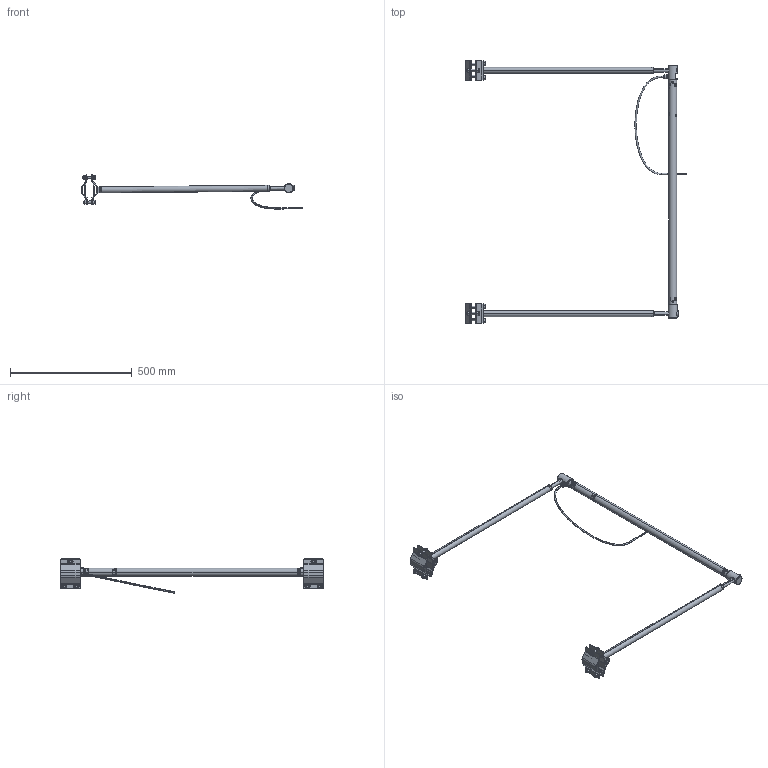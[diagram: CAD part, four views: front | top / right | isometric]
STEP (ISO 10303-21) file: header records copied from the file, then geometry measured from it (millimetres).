
FILE_DESCRIPTION (( 'STEP AP214' ), '1' );
FILE_NAME ('SFBRA.STEP', '2023-08-17T12:10:39', ( '' ), ( '' ), 'SwSTEP 2.0', 'SolidWorks 2023', '' );
FILE_SCHEMA (( 'AUTOMOTIVE_DESIGN' ));
Length unit declared in the file: millimetre
Products named in the file (34): FUSEE; CABLE_round^CABLE; SFHEAD; CABEND; BN 610 M10x12; VBRA; BN 1593 M3x5; CABLE; BLID; BSHORTP; BRACF; SFBASE; Assemblage1^BLIDP; BLIDP; BSHORT; BN 10342 M10x25x1.5; ORING 21.89x2.62; BN 610 M10x40; SFBRA; BRACB; CYARM; SFTUBE; CYBRA; GROH 13x17x4; BN 33010 M10; SFSEN; LABSF; BRASH; GLAND; BN 33021 M4x8; MICHEAD; MICHEADP; SFKIT; BN 611 M10x110
Assembly tree (54 placements, depth 7):
  SFBRA
    SFKIT
      SFSEN
        SFBASE
          BSHORTP
            BSHORT
            ORING 21.89x2.62  x2
            BN 1593 M3x5  x4
            BN 33021 M4x8
          GROH 13x17x4
          FUSEE
          LABSF
          CABLE
            CABLE_round^CABLE
            CABEND
            GLAND
          MICHEADP
            ORING 21.89x2.62
            MICHEAD
            BN 1593 M3x5  x2
        SFHEAD
          SFTUBE
          GROH 13x17x4
          FUSEE
          BLIDP
            Assemblage1^BLIDP
              BLID
            ORING 21.89x2.62  x2
            BN 33021 M4x8
      BN 611 M10x110  x2
    CYBRA  x2
      BN 610 M10x12
      CYARM
      VBRA
        BRACB
        BRACF
        BN 610 M10x40  x3
        BN 33010 M10  x3
        BRASH  x2
      BN 10342 M10x25x1.5
Bounding box: 910.51 x 1085 x 140.26 mm (x, y, z)
Volume: 758034.3 mm3; surface area: 659737.9 mm2
Topology: 67 solids, 68 shells, 2805 faces, 6938 edges, 4449 vertices
Faces by surface type: plane 1294, bspline 630, cylinder 463, cone 288, torus 118, sphere 12
Entity records: 107637 total; most frequent: CARTESIAN_POINT 47009, ORIENTED_EDGE 10252, DIRECTION 7458, EDGE_CURVE 5126, VERTEX_POINT 3369, LINE 3042, VECTOR 3042, EDGE_LOOP 2269
